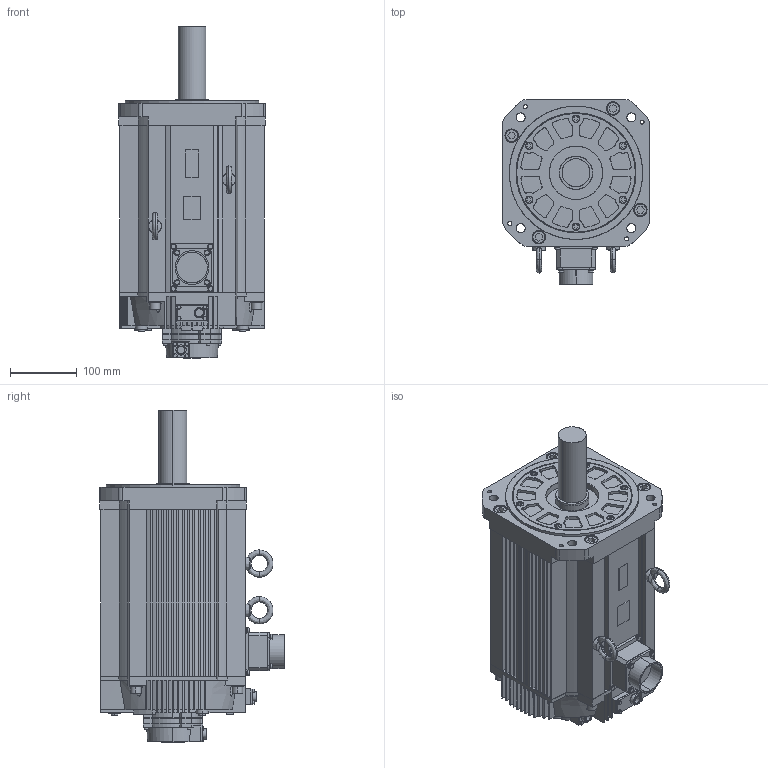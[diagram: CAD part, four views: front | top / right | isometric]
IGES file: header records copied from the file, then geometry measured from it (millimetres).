
Start section: SolidWorks IGES file using analytic representation for surfaces
Global section: file name: D:\YASKAWA\sgm7g_1a__a2c.IGS; native system: SolidWorks 2006 by SolidWorks Corporation; preprocessor: SolidWorks 2006 by SolidWorks Corporation; author: yamanouchi; date: 140507.140716; units: millimetre
Bounding box: 220 x 277.08 x 498.1 mm (x, y, z)
Surface area: 693980.6 mm2 (no closed solid volume)
Topology: 0 solids, 0 shells, 1427 faces, 16711 edges, 16708 vertices
Faces by surface type: bspline 864, revolution 563
